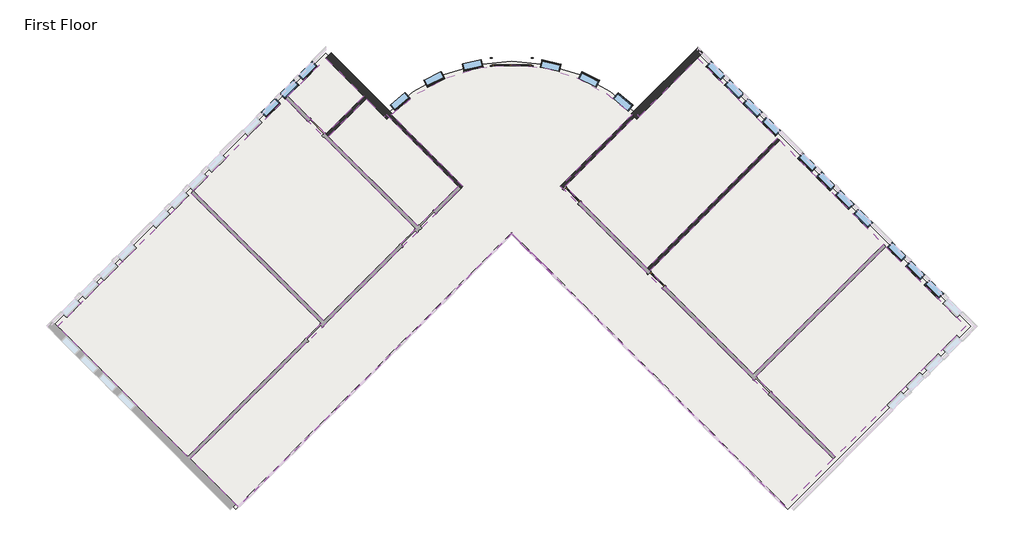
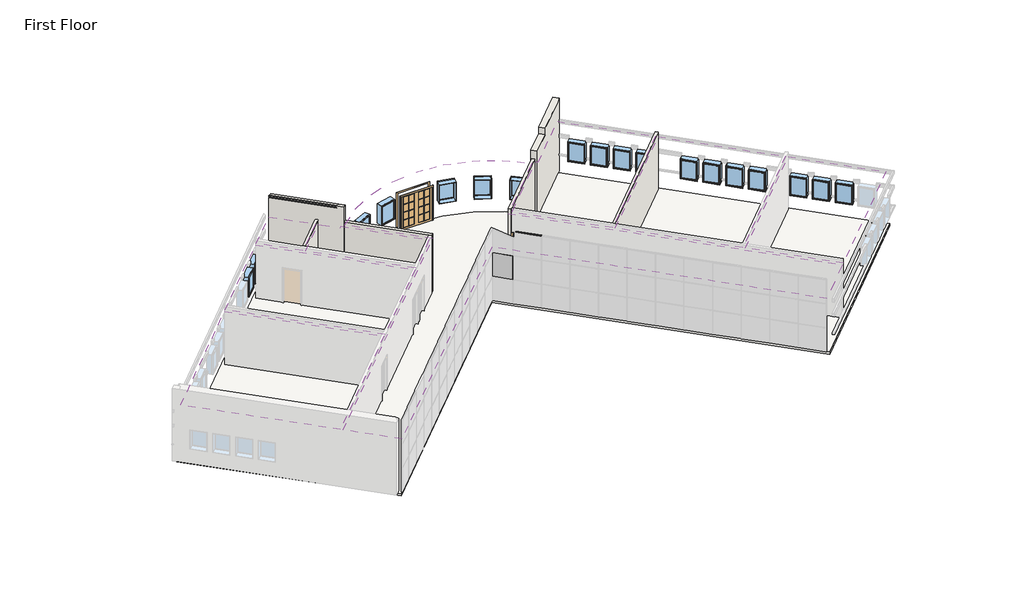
# One storey, part 4 of 5: 20 windows, 9 coverings, 6 walls, 3 doors, 1 member, 1 plate, 1 slab.
"""IFC4 building model written with IfcOpenShell, lengths in millimetres."""

from ifc_helpers import new_model, si_unit, point, frame, frame_2d, origin, origin_with_axes, place, context, project, spatial, polyline, circle_curve, ellipse_curve, trimmed, segment, composite_curve, outline, extrude, transform, mapped, element, save
from ifc_brep_helpers import plane_surface, cylinder_surface, revolved_surface, advanced_brep
from components import door_0a477ef8, door_5f5b55da, member_9574b3de, system_panel_glazed_dc791129, window_15c49d37, window_0e2fc6ce

model = new_model("IFC4")

# Units and contexts
model_context = context("Model", 3, world=origin())
ifc_project = project(units=[si_unit("LENGTHUNIT", "METRE", prefix="MILLI")], contexts=[model_context])

# Site, building, storey
site = spatial("IfcSite", under=ifc_project)
building = spatial("IfcBuilding", under=site)
storey = spatial("IfcBuildingStorey", under=building, Name="First Floor", Elevation=0.0)

# Coverings
placement = place(None, origin())
element("IfcCovering", 1, ObjectType="2' x 2' ACT System", at=placement, inside=storey, context=model_context, shape_type="SweptSolid", body=[
    extrude(outline(polyline([(-17633.6967091, 4930.552621), (-13359.2125777, 9205.0367523), (-7322.2354004, 3168.0595749), (-11596.7195317, -1106.4245564), (-17633.6967091, 4930.552621)])), frame((0.0, 0.0, 3352.8), z_axis=(0.0, 0.0, 1.0), x_axis=(1.0, 0.0, 0.0)), (0.0, 0.0, 1.0), 57.15),
])
element("IfcCovering", 2, ObjectType="2' x 2' ACT System", at=placement, inside=storey, context=model_context, shape_type="SweptSolid", body=[
    extrude(outline(polyline([(-11706.7276692, -1216.4326939), (-17885.2616628, -7394.9666875), (-23922.2388402, -1357.9895101), (-17743.7048466, 4820.5444835), (-11706.7276692, -1216.4326939)])), frame((0.0, 0.0, 3352.8), z_axis=(0.0, 0.0, 1.0), x_axis=(1.0, 0.0, 0.0)), (0.0, 0.0, 1.0), 57.15),
])
element("IfcCovering", 3, ObjectType="2' x 2' ACT System", at=placement, inside=storey, context=model_context, shape_type="SweptSolid", body=[
    extrude(outline(composite_curve([segment(polyline([(-607.4844504, 5141.7064221), (12039.1967967, -7504.974825), (9814.3383427, -9729.833279), (-2868.0283643, 2952.533428), (-15550.3950713, -9729.833279), (-17775.2535253, -7504.974825), (-5128.5722782, 5141.7064221), (-8449.0111375, 8462.1452813)]), True, "CONTINUOUS"), segment(trimmed(circle_curve(frame_2d((-2868.0283643, 2903.1420194)), 7877.175), [point((-8449.0111375, 8462.1452813))], [point((2712.9544089, 8462.1452813))], False, "CARTESIAN"), True, "CONTINUOUS"), segment(polyline([(2712.9544089, 8462.1452813), (-607.4844504, 5141.7064221)]), True, "CONTINUOUS")], self_intersect=False)), frame((0.0, 0.0, 3352.8), z_axis=(0.0, 0.0, 1.0), x_axis=(1.0, 0.0, 0.0)), (0.0, 0.0, 1.0), 57.15),
])
element("IfcCovering", 4, ObjectType="2' x 2' ACT System", at=placement, inside=storey, context=model_context, shape_type="SweptSolid", body=[
    extrude(outline(polyline([(-13249.2044403, 9315.0448898), (-11489.0742405, 11075.1750895), (-9728.9440408, 9315.0448898), (-11489.0742405, 7554.9146901), (-13249.2044403, 9315.0448898)])), frame((0.0, 0.0, 3352.8), z_axis=(0.0, 0.0, 1.0), x_axis=(1.0, 0.0, 0.0)), (0.0, 0.0, 1.0), 57.15),
])
element("IfcCovering", 5, ObjectType="2' x 2' ACT System", at=placement, inside=storey, context=model_context, shape_type="SweptSolid", body=[
    extrude(outline(polyline([(-11379.066103, 7444.9065526), (-9618.9359033, 9205.0367523), (-8786.2632499, 8372.3640989), (-8682.75474, 8475.8726089), (-5348.5885532, 5141.7064221), (-7212.2272629, 3278.0677124), (-11379.066103, 7444.9065526)])), frame((0.0, 0.0, 3352.8), z_axis=(0.0, 0.0, 1.0), x_axis=(1.0, 0.0, 0.0)), (0.0, 0.0, 1.0), 57.15),
])
element("IfcCovering", 6, ObjectType="2' x 2' ACT System", at=placement, inside=storey, context=model_context, shape_type="SweptSolid", body=[
    extrude(outline(composite_curve([segment(polyline([(-607.4844504, 5141.7064221), (12039.1967967, -7504.974825), (9814.3383427, -9729.833279), (-2868.0283643, 2952.533428), (-15550.3950713, -9729.833279), (-17775.2535253, -7504.974825), (-5128.5722782, 5141.7064221), (-8449.0111375, 8462.1452813)]), True, "CONTINUOUS"), segment(trimmed(circle_curve(frame_2d((-2868.0283643, 2903.1420194)), 7877.175), [point((-8449.0111375, 8462.1452813))], [point((2712.9544089, 8462.1452813))], False, "CARTESIAN"), True, "CONTINUOUS"), segment(polyline([(2712.9544089, 8462.1452813), (-607.4844504, 5141.7064221)]), True, "CONTINUOUS")], self_intersect=False)), frame((0.0, 0.0, 3352.8), z_axis=(0.0, 0.0, 1.0), x_axis=(1.0, 0.0, 0.0)), (0.0, 0.0, 1.0), 57.15),
])
element("IfcCovering", 7, ObjectType="2' x 2' ACT System", at=placement, inside=storey, context=model_context, shape_type="SweptSolid", body=[
    extrude(outline(polyline([(2946.6980114, 8475.8726089), (3050.2065213, 8372.3640989), (5753.0175119, 11075.1750895), (9452.8830338, 7375.3095676), (3415.9058564, 1338.3323903), (-387.4681754, 5141.7064221), (2946.6980114, 8475.8726089)])), frame((0.0, 0.0, 3352.8), z_axis=(0.0, 0.0, 1.0), x_axis=(1.0, 0.0, 0.0)), (0.0, 0.0, 1.0), 57.15),
])
element("IfcCovering", 8, ObjectType="2' x 2' ACT System", at=placement, inside=storey, context=model_context, shape_type="SweptSolid", body=[
    extrude(outline(polyline([(3525.9139939, 1228.3242528), (9562.8911713, 7265.3014302), (14376.3084522, 2451.8841493), (8339.3312748, -3585.0930281), (3525.9139939, 1228.3242528)])), frame((0.0, 0.0, 3352.8), z_axis=(0.0, 0.0, 1.0), x_axis=(1.0, 0.0, 0.0)), (0.0, 0.0, 1.0), 57.15),
])
element("IfcCovering", 9, ObjectType="2' x 2' ACT System", at=placement, inside=storey, context=model_context, shape_type="SweptSolid", body=[
    extrude(outline(polyline([(8449.3394123, -3695.1011656), (14486.3165897, 2341.8760118), (18186.1821115, -1357.9895101), (12149.2049342, -7394.9666875), (8449.3394123, -3695.1011656)])), frame((0.0, 0.0, 3352.8), z_axis=(0.0, 0.0, 1.0), x_axis=(1.0, 0.0, 0.0)), (0.0, 0.0, 1.0), 57.15),
])

# Doors
door_shape = door_0a477ef8(model_context)
element("IfcDoor", 10, ObjectType="Double-Glass 2 : 72\" x 84\"", at=placement, inside=storey, context=model_context, shape_type="MappedRepresentation", body=[
    mapped(door_shape, transform((-2868.7603243, 10905.5717204, 0.0), x_axis=(-0.9999999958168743, -9.146721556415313e-05, 0.0), y_axis=(9.146721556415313e-05, -0.9999999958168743, 0.0), z_axis=(0.0, 0.0, 1.0))),
])
door_2_shape = door_5f5b55da(model_context)
element("IfcDoor", 11, ObjectType="Single-Glass 1 : 36\" x 84\"", at=placement, inside=storey, context=model_context, shape_type="MappedRepresentation", body=[
    mapped(door_2_shape, transform((-66.4240191, 4710.6541283, 0.0), x_axis=(-0.7071067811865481, 0.7071067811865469, 0.0), y_axis=(-0.7071067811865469, -0.7071067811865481, 0.0), z_axis=(0.0, 0.0, 1.0))),
])
element("IfcDoor", 12, ObjectType="Single-Glass 1 : 36\" x 84\"", at=placement, inside=storey, context=model_context, shape_type="MappedRepresentation", body=[
    mapped(door_2_shape, transform((3846.9581502, 797.271959, 0.0), x_axis=(-0.7071067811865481, 0.7071067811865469, 0.0), y_axis=(-0.7071067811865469, -0.7071067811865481, 0.0), z_axis=(0.0, 0.0, 1.0))),
])

# Member
member_shape = member_9574b3de(model_context)
element("IfcMember", 13, ObjectType="Rectangular Mullion : 1.5\" x 2.5\" Rectangular", at=placement, inside=storey, context=model_context, shape_type="MappedRepresentation", body=[
    mapped(member_shape, transform((-1978.9830083, 2063.488072, 4572.0), x_axis=(0.0, 0.0, 1.0), y_axis=(0.7071067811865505, 0.7071067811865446, 0.0), z_axis=(-0.7071067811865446, 0.7071067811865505, 0.0))),
])

# Plate
system_panel_glazed_shape = system_panel_glazed_dc791129(model_context)
element("IfcPlate", 14, ObjectType="System Panel : Glazed", at=placement, inside=storey, context=model_context, shape_type="MappedRepresentation", body=[
    mapped(system_panel_glazed_shape, transform((-2447.0788586, 2531.5839223, 1543.05), x_axis=(-0.7071067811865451, 0.70710678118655, 0.0), y_axis=(-0.70710678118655, -0.7071067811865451, 0.0), z_axis=(0.0, 0.0, 1.0))),
])

# Slab
element("IfcSlab", 15, ObjectType="LW Concrete on Metal Deck", at=placement, inside=storey, context=model_context, shape_type="SweptSolid", body=[
    extrude(outline(composite_curve([segment(polyline([(-11489.0742405, 11308.6617487), (-8661.5174871, 8481.1049952)]), True, "CONTINUOUS"), segment(trimmed(circle_curve(frame_2d((-2868.0283643, 2903.1420194)), 8042.275), [point((-8661.5174871, 8481.1049952))], [point((2925.4607585, 8481.1049952))], False, "CARTESIAN"), True, "CONTINUOUS"), segment(polyline([(2925.4607585, 8481.1049952), (5753.0175119, 11308.6617487), (18419.6687707, -1357.9895101), (9931.0816722, -9846.5766085), (-2868.0283643, 2952.533428), (-15667.1384009, -9846.5766085), (-24155.7254993, -1357.9895101), (-11489.0742405, 11308.6617487)]), True, "CONTINUOUS")], self_intersect=False)), frame((0.0, 0.0, -139.7), z_axis=(0.0, 0.0, 1.0), x_axis=(1.0, 0.0, 0.0)), (0.0, 0.0, 1.0), 139.7),
])

# Walls
element("IfcWall", 16, ObjectType="Exterior - Split Face and CMU on Mtl. Stud", at=placement, inside=storey, context=model_context, shape_type="AdvancedBrep", body=[
    advanced_brep(
    [(2921.9555443, 8244.1131219, 0.0), (5753.0175119, 11075.1750895, 0.0), (6002.2196193, 11324.3771969, 0.0), (6002.2196193, 11324.3771969, 1016.0), (5937.1127624, 11259.27034, 1016.0), (5937.1127624, 11259.27034, 1085.85), (6002.2196193, 11324.3771969, 1085.85), (6002.2196193, 11324.3771969, 2133.6), (5937.1127624, 11259.27034, 2133.6), (5937.1127624, 11259.27034, 2336.8), (6002.2196193, 11324.3771969, 2336.8), (6002.2196193, 11324.3771969, 3048.0), (5937.1127624, 11259.27034, 3048.0), (5937.1127624, 11259.27034, 3251.2), (6002.2196193, 11324.3771969, 3251.2), (6002.2196193, 11324.3771969, 4572.0), (5753.0175119, 11075.1750895, 4572.0), (4034.0155785, 9356.1731561, 4572.0), (4034.0155785, 9356.1731561, 4165.6), (2921.9555443, 8244.1131219, 4165.6), (2677.2250436, 8497.7868359, 0.0), (2677.2250436, 8497.7868359, 4165.6), (3788.5408447, 9609.102637, 4165.6), (3788.5408447, 9609.102637, 4572.0), (5753.0175119, 11573.5793042, 4572.0), (5753.0175119, 11573.5793042, 3251.2), (2926.4294954, 8746.9912878, 3251.2), (2861.3220456, 8681.8838379, 3251.2), (2861.3220456, 8681.8838379, 3048.0), (2926.4294954, 8746.9912878, 3048.0), (5753.0175119, 11573.5793042, 3048.0), (5753.0175119, 11573.5793042, 2336.8), (2926.4294954, 8746.9912878, 2336.8), (2861.3220456, 8681.8838379, 2336.8), (2861.3220456, 8681.8838379, 2133.6), (2926.4294954, 8746.9912878, 2133.6), (5753.0175119, 11573.5793042, 2133.6), (5753.0175119, 11573.5793042, 1085.85), (2926.4294954, 8746.9912878, 1085.85), (2861.3220456, 8681.8838379, 1085.85), (2861.3220456, 8681.8838379, 1016.0), (2926.4294954, 8746.9912878, 1016.0), (5753.0175119, 11573.5793042, 1016.0), (5753.0175119, 11573.5793042, 0.0), (2926.4294954, 8746.9912878, 0.0), (5818.1243688, 11508.4724474, 0.0), (2712.9544089, 8462.1452813, 0.0), (2742.2400511, 8432.5881297, 0.0), (2821.6568654, 8350.8358404, 0.0), (5753.0175119, 11443.3655905, 1085.85), (2926.3399919, 8616.6880705, 1085.85), (2926.3399919, 8616.6880705, 1016.0), (5753.0175119, 11443.3655905, 1016.0), (2926.3399919, 8616.6880705, 2133.6), (5753.0175119, 11443.3655905, 2133.6), (2926.3399919, 8616.6880705, 2336.8), (5753.0175119, 11443.3655905, 2336.8), (2926.3399919, 8616.6880705, 3048.0), (5753.0175119, 11443.3655905, 3048.0), (2926.3399919, 8616.6880705, 3251.2), (5753.0175119, 11443.3655905, 3251.2)],
    [
        (0, 1),
        (1, 2),
        (2, 3),
        (3, 4),
        (4, 5),
        (5, 6),
        (6, 7),
        (7, 8),
        (8, 9),
        (9, 10),
        (10, 11),
        (11, 12),
        (12, 13),
        (13, 14),
        (14, 15),
        (15, 16),
        (16, 17),
        (17, 18),
        (18, 19),
        (19, 0),
        (20, 21),
        (21, 22),
        (22, 23),
        (23, 24),
        (24, 25),
        (25, 26),
        (26, 27),
        (27, 28),
        (28, 29),
        (29, 30),
        (30, 31),
        (31, 32),
        (32, 33),
        (33, 34),
        (34, 35),
        (35, 36),
        (36, 37),
        (37, 38),
        (38, 39),
        (39, 40),
        (40, 41),
        (41, 42),
        (42, 43),
        (43, 44),
        (44, 20),
        (24, 15),
        (14, 25),
        (2, 45),
        (45, 43),
        (42, 3),
        (6, 37),
        (36, 7),
        (10, 31),
        (30, 11),
        (19, 21, circle_curve(frame((-2868.0283643, 2903.1420194, 4165.6), z_axis=(0.0, 0.0, 1.0), x_axis=(1.0, 0.0, 0.0)), 7877.175)),
        (20, 46, circle_curve(frame((-2868.0283643, 2903.1420194, 0.0), z_axis=(0.0, 0.0, -1.0), x_axis=(1.0, 0.0, 0.0)), 7877.175)),
        (46, 47, circle_curve(frame((-2868.0283643, 2903.1420194, 0.0), z_axis=(0.0, 0.0, -1.0), x_axis=(1.0, 0.0, 0.0)), 7877.175)),
        (47, 48, circle_curve(frame((-2868.0283643, 2903.1420194, 0.0), z_axis=(0.0, 0.0, -1.0), x_axis=(1.0, 0.0, 0.0)), 7877.175)),
        (48, 0, circle_curve(frame((-2868.0283643, 2903.1420194, 0.0), z_axis=(0.0, 0.0, -1.0), x_axis=(1.0, 0.0, 0.0)), 7877.175)),
        (23, 17, circle_curve(frame((-2868.0283643, 2903.1420194, 4572.0), z_axis=(0.0, 0.0, -1.0), x_axis=(1.0, 0.0, 0.0)), 9448.8)),
        (22, 18, circle_curve(frame((-2868.0283643, 2903.1420194, 4165.6), z_axis=(0.0, 0.0, -1.0), x_axis=(1.0, 0.0, 0.0)), 9448.8)),
        (47, 45),
        (49, 50),
        (50, 39, circle_curve(frame((-2868.0283643, 2903.1420194, 1085.85), z_axis=(0.0, 0.0, 1.0), x_axis=(0.6844196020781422, 0.7290883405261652, 0.0)), 8137.525)),
        (5, 49),
        (51, 52),
        (52, 4),
        (40, 51, circle_curve(frame((-2868.0283643, 2903.1420194, 1016.0), z_axis=(0.0, 0.0, -1.0), x_axis=(0.6844196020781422, 0.7290883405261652, 0.0)), 8137.525)),
        (50, 51),
        (49, 52),
        (53, 54),
        (54, 8),
        (34, 53, circle_curve(frame((-2868.0283643, 2903.1420194, 2133.6), z_axis=(0.0, 0.0, -1.0), x_axis=(0.6844196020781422, 0.7290883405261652, 0.0)), 8137.525)),
        (55, 53),
        (33, 55, circle_curve(frame((-2868.0283643, 2903.1420194, 2336.8), z_axis=(0.0, 0.0, -1.0), x_axis=(0.6844196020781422, 0.7290883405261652, 0.0)), 8137.525)),
        (56, 55),
        (9, 56),
        (56, 54),
        (57, 58),
        (58, 12),
        (28, 57, circle_curve(frame((-2868.0283643, 2903.1420194, 3048.0), z_axis=(0.0, 0.0, -1.0), x_axis=(-0.7040995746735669, 0.7101012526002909, 0.0)), 8137.525)),
        (59, 57),
        (27, 59, circle_curve(frame((-2868.0283643, 2903.1420194, 3251.2), z_axis=(0.0, 0.0, -1.0), x_axis=(-0.7040995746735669, 0.7101012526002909, 0.0)), 8137.525)),
        (60, 59),
        (13, 60),
        (60, 58),
    ],
    [
        plane_surface(frame((2984.8535626, 8307.0111402, 0.0), z_axis=(0.707106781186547, -0.7071067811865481, 0.0), x_axis=(0.7071067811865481, 0.707106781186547, 0.0))),
        plane_surface(frame((2735.6514552, 8556.2132476, 0.0), z_axis=(-0.707106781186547, 0.7071067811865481, 0.0), x_axis=(-0.7071067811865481, -0.707106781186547, 0.0))),
        plane_surface(frame((5753.0175119, 11573.5793042, 0.0), z_axis=(0.7071067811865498, 0.7071067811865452, 0.0), x_axis=(-0.7071067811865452, 0.7071067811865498, 0.0))),
        revolved_surface(polyline([(5009.146635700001, 2903.1420194, 0.0), (5009.146635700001, 2903.1420194, 4165.6)]), (-2868.0283643, 2903.1420194, 0.0), (0.0, 0.0, -1.0)),
        plane_surface(frame((5877.6185656, 11199.7761432, 4572.0), z_axis=(0.0, 0.0, 1.0), x_axis=(-0.707106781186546, 0.7071067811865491, 0.0))),
        revolved_surface(polyline([(6580.771635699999, 2903.1420194, 4572.0), (6580.771635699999, 2903.1420194, 4165.6)]), (-2868.0283643, 2903.1420194, 0.0), (0.0, 0.0, 1.0)),
        plane_surface(frame((-2868.0283643, 2903.1420194, 4165.6), z_axis=(0.0, 0.0, 1.0), x_axis=(1.0, 0.0, 0.0))),
        plane_surface(frame((3050.2065213, 8372.3640989, 0.0), z_axis=(0.0, 0.0, -1.0000000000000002), x_axis=(-0.7071067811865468, 0.7071067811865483, 0.0))),
        plane_surface(frame((0.0, 0.0, 0.0), z_axis=(0.0, 0.0, -1.0), x_axis=(1.0, 0.0, 0.0))),
        plane_surface(frame((-2868.0283643, 2903.1420194, 1085.85), z_axis=(0.0, 0.0, -1.0), x_axis=(0.6844196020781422, 0.7290883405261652, 0.0))),
        plane_surface(frame((-2868.0283643, 2903.1420194, 1016.0), z_axis=(0.0, 0.0, 1.0), x_axis=(0.6844196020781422, 0.7290883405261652, 0.0))),
        cylinder_surface(frame((-2868.0283643, 2903.1420194, 1016.0), z_axis=(0.0, 0.0, -1.0), x_axis=(0.6844196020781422, 0.7290883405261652, 0.0)), 8137.525),
        plane_surface(frame((2926.3399919, 8616.6880705, 1016.0), z_axis=(-0.7071067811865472, 0.7071067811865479, 0.0), x_axis=(0.7071067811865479, 0.7071067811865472, 0.0))),
        plane_surface(frame((5753.0175119, 11443.3655905, 1016.0), z_axis=(0.7071067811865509, 0.7071067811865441, 0.0), x_axis=(0.7071067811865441, -0.7071067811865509, 0.0))),
        plane_surface(frame((-2868.0283643, 2903.1420194, 2133.6), z_axis=(0.0, 0.0, 1.0), x_axis=(0.6844196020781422, 0.7290883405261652, 0.0))),
        cylinder_surface(frame((-2868.0283643, 2903.1420194, 2133.6), z_axis=(0.0, 0.0, -1.0), x_axis=(0.6844196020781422, 0.7290883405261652, 0.0)), 8137.525),
        plane_surface(frame((-2868.0283643, 2903.1420194, 2336.8), z_axis=(0.0, 0.0, -1.0), x_axis=(0.6844196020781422, 0.7290883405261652, 0.0))),
        plane_surface(frame((2926.3399919, 8616.6880705, 2133.6), z_axis=(-0.7071067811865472, 0.7071067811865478, 0.0), x_axis=(0.7071067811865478, 0.7071067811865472, 0.0))),
        plane_surface(frame((5753.0175119, 11443.3655905, 2133.6), z_axis=(0.7071067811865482, 0.7071067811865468, 0.0), x_axis=(0.7071067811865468, -0.7071067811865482, 0.0))),
        plane_surface(frame((-2868.0283643, 2903.1420194, 3048.0), z_axis=(0.0, 0.0, 1.0), x_axis=(-0.7040995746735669, 0.7101012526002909, 0.0))),
        cylinder_surface(frame((-2868.0283643, 2903.1420194, 3048.0), z_axis=(0.0, 0.0, -1.0), x_axis=(-0.7040995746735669, 0.7101012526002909, 0.0)), 8137.525),
        plane_surface(frame((-2868.0283643, 2903.1420194, 3251.2), z_axis=(0.0, 0.0, -1.0), x_axis=(-0.7040995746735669, 0.7101012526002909, 0.0))),
        plane_surface(frame((2926.3399919, 8616.6880705, 3048.0), z_axis=(-0.7071067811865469, 0.7071067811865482, 0.0), x_axis=(0.7071067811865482, 0.7071067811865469, 0.0))),
        plane_surface(frame((5753.0175119, 11443.3655905, 3048.0), z_axis=(0.7071067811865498, 0.7071067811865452, 0.0), x_axis=(0.7071067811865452, -0.7071067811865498, 0.0))),
    ],
    [
        (0, [[1, 2, 3, 4, 5, 6, 7, 8, 9, 10, 11, 12, 13, 14, 15, 16, 17, 18, 19, 20]]),
        (1, [[21, 22, 23, 24, 25, 26, 27, 28, 29, 30, 31, 32, 33, 34, 35, 36, 37, 38, 39, 40, 41, 42, 43, 44, 45]]),
        (2, [[46, -15, 47, -25]]),
        (2, [[48, 49, -43, 50, -3]]),
        (2, [[51, -37, 52, -7]]),
        (2, [[53, -31, 54, -11]]),
        (3, [[-20, 55, -21, 56, 57, 58, 59]]),
        (4, [[-46, -24, 60, -17, -16]]),
        (5, [[-60, -23, 61, -18]]),
        (6, [[-19, -61, -22, -55]]),
        (7, [[-2, -1, -59, -58, 62, -48]]),
        (8, [[-57, -56, -45, -44, -49, -62]]),
        (9, [[63, 64, -39, -38, -51, -6, 65]]),
        (10, [[66, 67, -4, -50, -42, -41, 68]]),
        (11, [[69, -68, -40, -64]]),
        (12, [[-63, 70, -66, -69]]),
        (13, [[-70, -65, -5, -67]]),
        (14, [[71, 72, -8, -52, -36, -35, 73]]),
        (15, [[74, -73, -34, 75]]),
        (16, [[76, -75, -33, -32, -53, -10, 77]]),
        (17, [[-71, -74, -76, 78]]),
        (18, [[-78, -77, -9, -72]]),
        (19, [[79, 80, -12, -54, -30, -29, 81]]),
        (20, [[82, -81, -28, 83]]),
        (21, [[84, -83, -27, -26, -47, -14, 85]]),
        (22, [[-79, -82, -84, 86]]),
        (23, [[-86, -85, -13, -80]]),
    ],
),
])
element("IfcWall", 17, ObjectType="Exterior - Split Face and CMU on Mtl. Stud", at=placement, inside=storey, context=model_context, shape_type="AdvancedBrep", body=[
    advanced_brep(
    [(-11489.0742405, 11075.1750895, 0.0), (-9728.9440408, 9315.0448898, 0.0), (-9618.9359033, 9205.0367523, 0.0), (-8658.0122729, 8244.1131219, 0.0), (-8658.0122729, 8244.1131219, 4689.475), (-11489.0742405, 11075.1750895, 4689.475), (-11489.0742405, 11075.1750895, 4639.3965909), (-8911.6883314, 8497.7891804, 4639.3965909), (-8911.6883314, 8497.7891804, 4572.0), (-11489.0742405, 11075.1750895, 4572.0), (-8413.2817722, 8497.7868359, 4572.0), (-8413.2817722, 8497.7868359, 0.0), (-8662.486224, 8746.9912878, 0.0), (-11239.8721332, 11324.3771969, 0.0), (-11239.8721332, 11324.3771969, 1016.0), (-8662.486224, 8746.9912878, 1016.0), (-8597.3787742, 8681.8838379, 1016.0), (-8597.3787742, 8681.8838379, 1085.85), (-8662.486224, 8746.9912878, 1085.85), (-11239.8721332, 11324.3771969, 1085.85), (-11239.8721332, 11324.3771969, 2133.6), (-8662.486224, 8746.9912878, 2133.6), (-8597.3787742, 8681.8838379, 2133.6), (-8597.3787742, 8681.8838379, 2336.8), (-8662.486224, 8746.9912878, 2336.8), (-11239.8721332, 11324.3771969, 2336.8), (-11239.8721332, 11324.3771969, 3048.0), (-8662.486224, 8746.9912878, 3048.0), (-8597.3787742, 8681.8838379, 3048.0), (-8597.3787742, 8681.8838379, 3251.2), (-8662.486224, 8746.9912878, 3251.2), (-11239.8721332, 11324.3771969, 3251.2), (-11239.8721332, 11324.3771969, 4572.0), (-8662.486224, 8746.9912878, 4572.0), (-8557.713594, 8350.8358404, 0.0), (-8478.2967797, 8432.5881297, 0.0), (-8449.0111375, 8462.1452813, 0.0), (-11304.9789901, 11259.27034, 0.0), (-11304.9789901, 11259.27034, 3251.2), (-11304.9789901, 11259.27034, 3048.0), (-11304.9789901, 11259.27034, 2336.8), (-11304.9789901, 11259.27034, 2133.6), (-11304.9789901, 11259.27034, 1085.85), (-11304.9789901, 11259.27034, 1016.0), (-11413.683542, 11150.5657881, 4653.9354839), (-8836.2976328, 8573.179879, 4653.9354839), (-8662.3967205, 8616.6880705, 1085.85), (-8662.3967205, 8616.6880705, 1016.0), (-8662.3967205, 8616.6880705, 2336.8), (-8662.3967205, 8616.6880705, 2133.6), (-8662.3967205, 8616.6880705, 3251.2), (-8662.3967205, 8616.6880705, 3048.0)],
    [
        (0, 1),
        (1, 2),
        (2, 3),
        (3, 4),
        (4, 5),
        (5, 6),
        (6, 7),
        (7, 8),
        (8, 9),
        (9, 0),
        (10, 11),
        (11, 12),
        (12, 13),
        (13, 14),
        (14, 15),
        (15, 16),
        (16, 17),
        (17, 18),
        (18, 19),
        (19, 20),
        (20, 21),
        (21, 22),
        (22, 23),
        (23, 24),
        (24, 25),
        (25, 26),
        (26, 27),
        (27, 28),
        (28, 29),
        (29, 30),
        (30, 31),
        (31, 32),
        (32, 33),
        (33, 10),
        (3, 34, circle_curve(frame((-2868.0283643, 2903.1420194, 0.0), z_axis=(0.0, 0.0, -1.0), x_axis=(1.0, 0.0, 0.0)), 7877.175)),
        (34, 35, circle_curve(frame((-2868.0283643, 2903.1420194, 0.0), z_axis=(0.0, 0.0, -1.0), x_axis=(1.0, 0.0, 0.0)), 7877.175)),
        (35, 36, circle_curve(frame((-2868.0283643, 2903.1420194, 0.0), z_axis=(0.0, 0.0, -1.0), x_axis=(1.0, 0.0, 0.0)), 7877.175)),
        (36, 11, circle_curve(frame((-2868.0283643, 2903.1420194, 0.0), z_axis=(0.0, 0.0, -1.0), x_axis=(1.0, 0.0, 0.0)), 7877.175)),
        (10, 4, ellipse_curve(frame((-2868.0283643, 2903.1420194, 4583.6416667), z_axis=(0.2236067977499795, 0.22360679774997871, 0.9486832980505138), x_axis=(0.6708203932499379, 0.6708203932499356, -0.31622776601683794)), 8303.2715092, 7877.175)),
        (37, 0),
        (9, 32),
        (31, 38),
        (38, 39),
        (39, 26),
        (25, 40),
        (40, 41),
        (41, 20),
        (19, 42),
        (42, 43),
        (43, 14),
        (13, 37),
        (5, 44),
        (44, 6),
        (33, 45),
        (45, 44),
        (37, 35),
        (46, 47),
        (47, 43),
        (42, 46),
        (17, 46, circle_curve(frame((-2868.0283643, 2903.1420194, 1085.85), z_axis=(0.0, 0.0, 1.0), x_axis=(-0.7040995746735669, 0.7101012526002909, 0.0)), 8137.525)),
        (47, 16, circle_curve(frame((-2868.0283643, 2903.1420194, 1016.0), z_axis=(0.0, 0.0, -1.0), x_axis=(-0.7040995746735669, 0.7101012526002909, 0.0)), 8137.525)),
        (48, 49),
        (49, 41),
        (40, 48),
        (49, 22, circle_curve(frame((-2868.0283643, 2903.1420194, 2133.6), z_axis=(0.0, 0.0, -1.0), x_axis=(-0.7120553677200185, 0.70212331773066, 0.0)), 8137.525)),
        (48, 23, circle_curve(frame((-2868.0283643, 2903.1420194, 2336.8), z_axis=(0.0, 0.0, -1.0), x_axis=(-0.7120553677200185, 0.70212331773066, 0.0)), 8137.525)),
        (50, 51),
        (51, 39),
        (38, 50),
        (51, 28, circle_curve(frame((-2868.0283643, 2903.1420194, 3048.0), z_axis=(0.0, 0.0, -1.0), x_axis=(-0.7120553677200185, 0.70212331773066, 0.0)), 8137.525)),
        (50, 29, circle_curve(frame((-2868.0283643, 2903.1420194, 3251.2), z_axis=(0.0, 0.0, -1.0), x_axis=(-0.7120553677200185, 0.70212331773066, 0.0)), 8137.525)),
        (8, 33),
        (7, 45),
    ],
    [
        plane_surface(frame((-11738.2763479, 11324.3771969, 0.0), z_axis=(-0.7071067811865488, -0.7071067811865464, 0.0), x_axis=(0.7071067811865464, -0.7071067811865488, 0.0))),
        plane_surface(frame((-11489.0742405, 11573.5793042, 0.0), z_axis=(0.7071067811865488, 0.7071067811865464, 0.0), x_axis=(-0.7071067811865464, 0.7071067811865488, 0.0))),
        revolved_surface(polyline([(5009.146635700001, 2903.1420194, 0.0), (5009.146635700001, 2903.1420194, 7209.366666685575)]), (-2868.0283643, 2903.1420194, 0.0), (0.0, 0.0, -1.0)),
        plane_surface(frame((-24171.4409475, -1607.1916175, 0.0), z_axis=(-0.7071067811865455, 0.7071067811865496, 0.0), x_axis=(0.7071067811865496, 0.7071067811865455, 0.0))),
        plane_surface(frame((-1143.8191891, 2952.533428, 4165.6), z_axis=(0.2236067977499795, 0.22360679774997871, 0.9486832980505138), x_axis=(-0.7071067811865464, 0.7071067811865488, 0.0))),
        plane_surface(frame((-11613.6752942, 11199.7761432, 0.0), z_axis=(0.0, 0.0, -1.0000000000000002), x_axis=(0.7071067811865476, 0.7071067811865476, 0.0))),
        plane_surface(frame((0.0, 0.0, 0.0), z_axis=(0.0, 0.0, -1.0), x_axis=(1.0, 0.0, 0.0))),
        plane_surface(frame((-11489.0742405, 11443.3655905, 1016.0), z_axis=(0.7071067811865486, 0.7071067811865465, 0.0), x_axis=(0.7071067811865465, -0.7071067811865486, 0.0))),
        plane_surface(frame((-2868.0283643, 2903.1420194, 1085.85), z_axis=(0.0, 0.0, -1.0), x_axis=(-0.7040995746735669, 0.7101012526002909, 0.0))),
        plane_surface(frame((-2868.0283643, 2903.1420194, 1016.0), z_axis=(0.0, 0.0, 1.0), x_axis=(-0.7040995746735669, 0.7101012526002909, 0.0))),
        cylinder_surface(frame((-2868.0283643, 2903.1420194, 1016.0), z_axis=(0.0, 0.0, -1.0), x_axis=(-0.7040995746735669, 0.7101012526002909, 0.0)), 8137.525),
        plane_surface(frame((-11489.0742405, 11443.3655905, 2133.6), z_axis=(0.7071067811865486, 0.7071067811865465, 0.0), x_axis=(0.7071067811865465, -0.7071067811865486, 0.0))),
        plane_surface(frame((-2868.0283643, 2903.1420194, 2133.6), z_axis=(0.0, 0.0, 1.0), x_axis=(-0.7120553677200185, 0.70212331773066, 0.0))),
        cylinder_surface(frame((-2868.0283643, 2903.1420194, 2133.6), z_axis=(0.0, 0.0, -1.0), x_axis=(-0.7120553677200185, 0.70212331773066, 0.0)), 8137.525),
        plane_surface(frame((-2868.0283643, 2903.1420194, 2336.8), z_axis=(0.0, 0.0, -1.0), x_axis=(-0.7120553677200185, 0.70212331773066, 0.0))),
        plane_surface(frame((-11489.0742405, 11443.3655905, 3048.0), z_axis=(0.7071067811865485, 0.7071067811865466, 0.0), x_axis=(0.7071067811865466, -0.7071067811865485, 0.0))),
        plane_surface(frame((-2868.0283643, 2903.1420194, 3048.0), z_axis=(0.0, 0.0, 1.0), x_axis=(-0.7120553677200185, 0.70212331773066, 0.0))),
        cylinder_surface(frame((-2868.0283643, 2903.1420194, 3048.0), z_axis=(0.0, 0.0, -1.0), x_axis=(-0.7120553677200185, 0.70212331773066, 0.0)), 8137.525),
        plane_surface(frame((-2868.0283643, 2903.1420194, 3251.2), z_axis=(0.0, 0.0, -1.0), x_axis=(-0.7120553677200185, 0.70212331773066, 0.0))),
        plane_surface(frame((-24438.6035671, -1340.0289979, 4572.0), z_axis=(0.0, 0.0, 1.0), x_axis=(0.7071067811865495, 0.7071067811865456, 0.0))),
        plane_surface(frame((-8662.486224, 8746.9912878, 4185.7445793), z_axis=(-0.7071067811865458, 0.7071067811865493, 0.0), x_axis=(0.7071067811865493, 0.7071067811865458, 0.0))),
        plane_surface(frame((-11489.0742405, 11034.763937, 4635.5), z_axis=(0.09553946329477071, 0.09553946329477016, -0.9908301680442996), x_axis=(0.7071067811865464, -0.7071067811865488, 0.0))),
    ],
    [
        (0, [[1, 2, 3, 4, 5, 6, 7, 8, 9, 10]]),
        (1, [[11, 12, 13, 14, 15, 16, 17, 18, 19, 20, 21, 22, 23, 24, 25, 26, 27, 28, 29, 30, 31, 32, 33, 34]]),
        (2, [[-4, 35, 36, 37, 38, -11, 39]]),
        (3, [[40, -10, 41, -32, 42, 43, 44, -26, 45, 46, 47, -20, 48, 49, 50, -14, 51]]),
        (3, [[-6, 52, 53]]),
        (4, [[-5, -39, -34, 54, 55, -52]]),
        (5, [[-3, -2, -1, -40, 56, -36, -35]]),
        (6, [[-51, -13, -12, -38, -37, -56]]),
        (7, [[57, 58, -49, 59]]),
        (8, [[60, -59, -48, -19, -18]]),
        (9, [[-58, 61, -16, -15, -50]]),
        (10, [[-57, -60, -17, -61]]),
        (11, [[62, 63, -46, 64]]),
        (12, [[-63, 65, -22, -21, -47]]),
        (13, [[-62, 66, -23, -65]]),
        (14, [[-66, -64, -45, -25, -24]]),
        (15, [[67, 68, -43, 69]]),
        (16, [[-68, 70, -28, -27, -44]]),
        (17, [[-67, 71, -29, -70]]),
        (18, [[-71, -69, -42, -31, -30]]),
        (19, [[72, -33, -41, -9]]),
        (20, [[73, -54, -72, -8]]),
        (21, [[-73, -7, -53, -55]]),
    ],
),
])
element("IfcWall", 18, ObjectType="Interior - 6 1/8\" Partition (2-hr)", at=placement, inside=storey, context=model_context, shape_type="AdvancedBrep", body=[
    advanced_brep(
    [(-5128.5722782, 5141.7064221, 0.0), (-8449.0111375, 8462.1452813, 0.0), (-8449.0111375, 8462.1452813, 3657.6), (-5128.5722782, 5141.7064221, 3657.6), (-5238.5804157, 5031.6982846, 0.0), (-5238.5804157, 5031.6982846, 3657.6), (-5348.5885532, 5141.7064221, 3657.6), (-8557.7157352, 8350.8336041, 3657.6), (-8557.7157352, 8350.8336041, 0.0), (-5348.5885532, 5141.7064221, 0.0)],
    [
        (0, 1),
        (1, 2),
        (2, 3),
        (3, 0),
        (4, 5),
        (5, 6),
        (6, 7),
        (7, 8),
        (8, 9),
        (9, 4),
        (0, 4),
        (8, 1, circle_curve(frame((-2868.0283643, 2903.1420194, 0.0), z_axis=(0.0, 0.0, -1.0), x_axis=(1.0, 0.0, 0.0)), 7877.175)),
        (2, 7, circle_curve(frame((-2868.0283643, 2903.1420194, 3657.6), z_axis=(0.0, 0.0, 1.0), x_axis=(1.0, 0.0, 0.0)), 7877.175)),
        (5, 3),
    ],
    [
        plane_surface(frame((-5183.576347, 5196.7104908, 0.0), z_axis=(0.7071067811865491, 0.7071067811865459, 0.0), x_axis=(-0.7071067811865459, 0.7071067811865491, 0.0))),
        plane_surface(frame((-5293.5844845, 5086.7023533, 0.0), z_axis=(-0.7071067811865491, -0.7071067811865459, 0.0), x_axis=(0.7071067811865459, -0.7071067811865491, 0.0))),
        plane_surface(frame((-5183.576347, 5196.7104908, 0.0), z_axis=(0.0, 0.0, -1.0), x_axis=(-0.707106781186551, -0.7071067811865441, 0.0))),
        plane_surface(frame((-8573.2406241, 8586.374768, 3657.6), z_axis=(0.0, 0.0, 1.0), x_axis=(-0.707106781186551, -0.7071067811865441, 0.0))),
        plane_surface(frame((-17899.854579, -7629.5758786, 0.0), z_axis=(0.7071067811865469, -0.7071067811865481, 0.0), x_axis=(0.7071067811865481, 0.7071067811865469, 0.0))),
        cylinder_surface(frame((-2868.0283643, 2903.1420194, 0.0), z_axis=(0.0, 0.0, -1.0), x_axis=(1.0, 0.0, 0.0)), 7877.175),
    ],
    [
        (0, [[1, 2, 3, 4]]),
        (1, [[5, 6, 7, 8, 9, 10]]),
        (2, [[-1, 11, -10, -9, 12]]),
        (3, [[-3, 13, -7, -6, 14]]),
        (4, [[-4, -14, -5, -11]]),
        (5, [[-2, -12, -8, -13]]),
    ],
),
])
element("IfcWall", 19, ObjectType="Interior - 6 1/8\" Partition (2-hr)", at=placement, inside=storey, context=model_context, shape_type="SweptSolid", body=[
    extrude(outline(polyline([(-11489.0742405, 7554.9146901), (-9728.9440408, 9315.0448898), (-9618.9359033, 9205.0367523), (-11379.066103, 7444.9065526), (-11489.0742405, 7554.9146901)])), origin_with_axes(), (0.0, 0.0, 1.0), 3657.6),
])
element("IfcWall", 20, ObjectType="Interior - 6 1/8\" Partition (2-hr)", at=placement, inside=storey, context=model_context, shape_type="AdvancedBrep", body=[
    advanced_brep(
    [(-497.4763129, 5031.6982846, 0.0), (-387.4681754, 5141.7064221, 0.0), (2821.6590066, 8350.8336041, 0.0), (2821.6590066, 8350.8336041, 3657.6), (-387.4681754, 5141.7064221, 3657.6), (-497.4763129, 5031.6982846, 3657.6), (-607.4844504, 5141.7064221, 0.0), (-607.4844504, 5141.7064221, 3657.6), (2712.9544089, 8462.1452813, 3657.6), (2712.9544089, 8462.1452813, 0.0)],
    [
        (0, 1),
        (1, 2),
        (2, 3),
        (3, 4),
        (4, 5),
        (5, 0),
        (6, 7),
        (7, 8),
        (8, 9),
        (9, 6),
        (0, 6),
        (9, 2, circle_curve(frame((-2868.0283643, 2903.1420194, 0.0), z_axis=(0.0, 0.0, -1.0), x_axis=(1.0, 0.0, 0.0)), 7877.175)),
        (3, 8, circle_curve(frame((-2868.0283643, 2903.1420194, 3657.6), z_axis=(0.0, 0.0, 1.0), x_axis=(1.0, 0.0, 0.0)), 7877.175)),
        (7, 5),
    ],
    [
        plane_surface(frame((-442.4722441, 5086.7023533, 0.0), z_axis=(0.7071067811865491, -0.7071067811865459, 0.0), x_axis=(0.7071067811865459, 0.7071067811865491, 0.0))),
        plane_surface(frame((-552.4803816, 5196.7104908, 0.0), z_axis=(-0.7071067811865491, 0.7071067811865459, 0.0), x_axis=(-0.7071067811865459, -0.7071067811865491, 0.0))),
        plane_surface(frame((-442.4722441, 5086.7023533, 0.0), z_axis=(0.0, 0.0, -1.0), x_axis=(-0.707106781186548, 0.7071067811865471, 0.0))),
        plane_surface(frame((2947.192033, 8476.3666305, 3657.6), z_axis=(0.0, 0.0, 1.0000000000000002), x_axis=(-0.7071067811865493, 0.7071067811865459, 0.0))),
        plane_surface(frame((12163.7978503, -7629.5758786, 0.0), z_axis=(-0.7071067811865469, -0.7071067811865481, 0.0), x_axis=(0.7071067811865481, -0.7071067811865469, 0.0))),
        cylinder_surface(frame((-2868.0283643, 2903.1420194, 0.0), z_axis=(0.0, 0.0, -1.0), x_axis=(1.0, 0.0, 0.0)), 7877.175),
    ],
    [
        (0, [[1, 2, 3, 4, 5, 6]]),
        (1, [[7, 8, 9, 10]]),
        (2, [[-2, -1, 11, -10, 12]]),
        (3, [[-5, -4, 13, -8, 14]]),
        (4, [[-6, -14, -7, -11]]),
        (5, [[-3, -12, -9, -13]]),
    ],
),
])
element("IfcWall", 21, ObjectType="Interior - 6 1/8\" Partition (2-hr)", at=placement, inside=storey, context=model_context, shape_type="SweptSolid", body=[
    extrude(outline(polyline([(3415.9058564, 1338.3323903), (9452.8830338, 7375.3095676), (9562.8911713, 7265.3014302), (3525.9139939, 1228.3242528), (3415.9058564, 1338.3323903)])), origin_with_axes(), (0.0, 0.0, 1.0), 3657.6),
])

# Windows
window_shape = window_15c49d37(model_context)
element("IfcWindow", 22, ObjectType="Fixed : 36\" x 48\"", at=placement, inside=storey, context=model_context, shape_type="MappedRepresentation", body=[
    mapped(window_shape, transform((-8066.2237793, 9037.6928325, 0.0), x_axis=(-0.7659856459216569, -0.6428576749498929, 0.0), y_axis=(0.6428576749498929, -0.7659856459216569, 0.0), z_axis=(0.0, 0.0, 1.0))),
])
element("IfcWindow", 23, ObjectType="Fixed : 36\" x 48\"", at=placement, inside=storey, context=model_context, shape_type="MappedRepresentation", body=[
    mapped(window_shape, transform((-4714.6266038, 10728.998151, 0.0), x_axis=(-0.9743494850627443, -0.2250401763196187, 0.0), y_axis=(0.2250401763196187, -0.9743494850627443, 0.0), z_axis=(0.0, 0.0, 1.0))),
])
element("IfcWindow", 24, ObjectType="Fixed : 36\" x 48\"", at=placement, inside=storey, context=model_context, shape_type="MappedRepresentation", body=[
    mapped(window_shape, transform((-6490.5147795, 10081.6893252, 0.0), x_axis=(-0.8948935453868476, -0.4462796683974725, 0.0), y_axis=(0.4462796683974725, -0.8948935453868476, 0.0), z_axis=(0.0, 0.0, 1.0))),
])
element("IfcWindow", 25, ObjectType="Fixed : 36\" x 48\"", at=placement, inside=storey, context=model_context, shape_type="MappedRepresentation", body=[
    mapped(window_shape, transform((6554.2698062, 10523.1249026, 0.0), x_axis=(-0.7071067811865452, 0.7071067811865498, 0.0), y_axis=(-0.7071067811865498, -0.7071067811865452, 0.0), z_axis=(0.0, 0.0, 1.0))),
])
element("IfcWindow", 26, ObjectType="Fixed : 36\" x 48\"", at=placement, inside=storey, context=model_context, shape_type="MappedRepresentation", body=[
    mapped(window_shape, transform((7416.3743938, 9661.020315, 0.0), x_axis=(-0.7071067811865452, 0.7071067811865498, 0.0), y_axis=(-0.7071067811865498, -0.7071067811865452, 0.0), z_axis=(0.0, 0.0, 1.0))),
])
element("IfcWindow", 27, ObjectType="Fixed : 36\" x 48\"", at=placement, inside=storey, context=model_context, shape_type="MappedRepresentation", body=[
    mapped(window_shape, transform((8278.4789814, 8798.9157274, 0.0), x_axis=(-0.7071067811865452, 0.7071067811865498, 0.0), y_axis=(-0.7071067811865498, -0.7071067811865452, 0.0), z_axis=(0.0, 0.0, 1.0))),
])
element("IfcWindow", 28, ObjectType="Fixed : 36\" x 48\"", at=placement, inside=storey, context=model_context, shape_type="MappedRepresentation", body=[
    mapped(window_shape, transform((9140.583569, 7936.8111398, 0.0), x_axis=(-0.7071067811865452, 0.7071067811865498, 0.0), y_axis=(-0.7071067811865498, -0.7071067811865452, 0.0), z_axis=(0.0, 0.0, 1.0))),
])
window_2_shape = window_0e2fc6ce(model_context)
element("IfcWindow", 29, ObjectType="Fixed : 36\" x 48\"", at=placement, inside=storey, context=model_context, shape_type="MappedRepresentation", body=[
    mapped(window_2_shape, transform((-12290.3265348, 10523.1249026, 0.0), x_axis=(0.7071067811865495, 0.7071067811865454, 0.0), y_axis=(-0.7071067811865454, 0.7071067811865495, 0.0), z_axis=(0.0, 0.0, 1.0))),
])
element("IfcWindow", 30, ObjectType="Fixed : 36\" x 48\"", at=placement, inside=storey, context=model_context, shape_type="MappedRepresentation", body=[
    mapped(window_2_shape, transform((-13152.4311224, 9661.020315, 0.0), x_axis=(0.7071067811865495, 0.7071067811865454, 0.0), y_axis=(-0.7071067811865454, 0.7071067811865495, 0.0), z_axis=(0.0, 0.0, 1.0))),
])
element("IfcWindow", 31, ObjectType="Fixed : 36\" x 48\"", at=placement, inside=storey, context=model_context, shape_type="MappedRepresentation", body=[
    mapped(window_2_shape, transform((-14014.53571, 8798.9157274, 0.0), x_axis=(0.7071067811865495, 0.7071067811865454, 0.0), y_axis=(-0.7071067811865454, 0.7071067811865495, 0.0), z_axis=(0.0, 0.0, 1.0))),
])
element("IfcWindow", 32, ObjectType="Fixed : 36\" x 48\"", at=placement, inside=storey, context=model_context, shape_type="MappedRepresentation", body=[
    mapped(window_2_shape, transform((2271.4327875, 9086.2422995, 0.0), x_axis=(-0.765985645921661, 0.642857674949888, 0.0), y_axis=(-0.642857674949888, -0.765985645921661, 0.0), z_axis=(0.0, 0.0, 1.0))),
])
element("IfcWindow", 33, ObjectType="Fixed : 36\" x 48\"", at=placement, inside=storey, context=model_context, shape_type="MappedRepresentation", body=[
    mapped(window_2_shape, transform((-1095.8037333, 10745.5912454, 0.0), x_axis=(-0.9743494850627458, 0.2250401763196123, 0.0), y_axis=(-0.2250401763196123, -0.9743494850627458, 0.0), z_axis=(0.0, 0.0, 1.0))),
])
element("IfcWindow", 34, ObjectType="Fixed : 36\" x 48\"", at=placement, inside=storey, context=model_context, shape_type="MappedRepresentation", body=[
    mapped(window_2_shape, transform((686.0129721, 10115.1861252, 0.0), x_axis=(-0.8948935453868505, 0.44627966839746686, 0.0), y_axis=(-0.44627966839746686, -0.8948935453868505, 0.0), z_axis=(0.0, 0.0, 1.0))),
])
element("IfcWindow", 35, ObjectType="Fixed : 36\" x 48\"", at=placement, inside=storey, context=model_context, shape_type="MappedRepresentation", body=[
    mapped(window_2_shape, transform((16738.115812, 339.2788968, 0.0), x_axis=(0.7071067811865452, -0.7071067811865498, 0.0), y_axis=(0.7071067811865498, 0.7071067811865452, 0.0), z_axis=(0.0, 0.0, 1.0))),
])
element("IfcWindow", 36, ObjectType="Fixed : 36\" x 48\"", at=placement, inside=storey, context=model_context, shape_type="MappedRepresentation", body=[
    mapped(window_2_shape, transform((15876.0112244, 1201.3834844, 0.0), x_axis=(0.7071067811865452, -0.7071067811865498, 0.0), y_axis=(0.7071067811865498, 0.7071067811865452, 0.0), z_axis=(0.0, 0.0, 1.0))),
])
element("IfcWindow", 37, ObjectType="Fixed : 36\" x 48\"", at=placement, inside=storey, context=model_context, shape_type="MappedRepresentation", body=[
    mapped(window_2_shape, transform((15013.9066368, 2063.488072, 0.0), x_axis=(0.7071067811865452, -0.7071067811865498, 0.0), y_axis=(0.7071067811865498, 0.7071067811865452, 0.0), z_axis=(0.0, 0.0, 1.0))),
])
element("IfcWindow", 38, ObjectType="Fixed : 36\" x 48\"", at=placement, inside=storey, context=model_context, shape_type="MappedRepresentation", body=[
    mapped(window_2_shape, transform((13451.8134959, 3625.5812129, 0.0), x_axis=(0.7071067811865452, -0.7071067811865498, 0.0), y_axis=(0.7071067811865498, 0.7071067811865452, 0.0), z_axis=(0.0, 0.0, 1.0))),
])
element("IfcWindow", 39, ObjectType="Fixed : 36\" x 48\"", at=placement, inside=storey, context=model_context, shape_type="MappedRepresentation", body=[
    mapped(window_2_shape, transform((12589.7089082, 4487.6858006, 0.0), x_axis=(0.7071067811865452, -0.7071067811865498, 0.0), y_axis=(0.7071067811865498, 0.7071067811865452, 0.0), z_axis=(0.0, 0.0, 1.0))),
])
element("IfcWindow", 40, ObjectType="Fixed : 36\" x 48\"", at=placement, inside=storey, context=model_context, shape_type="MappedRepresentation", body=[
    mapped(window_2_shape, transform((11727.6043206, 5349.7903882, 0.0), x_axis=(0.7071067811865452, -0.7071067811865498, 0.0), y_axis=(0.7071067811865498, 0.7071067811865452, 0.0), z_axis=(0.0, 0.0, 1.0))),
])
element("IfcWindow", 41, ObjectType="Fixed : 36\" x 48\"", at=placement, inside=storey, context=model_context, shape_type="MappedRepresentation", body=[
    mapped(window_2_shape, transform((10865.499733, 6211.8949758, 0.0), x_axis=(0.7071067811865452, -0.7071067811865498, 0.0), y_axis=(0.7071067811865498, 0.7071067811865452, 0.0), z_axis=(0.0, 0.0, 1.0))),
])

save(model, "model.ifc")
